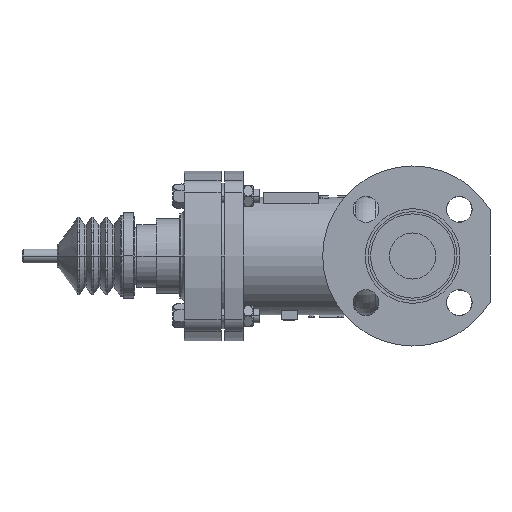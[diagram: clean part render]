
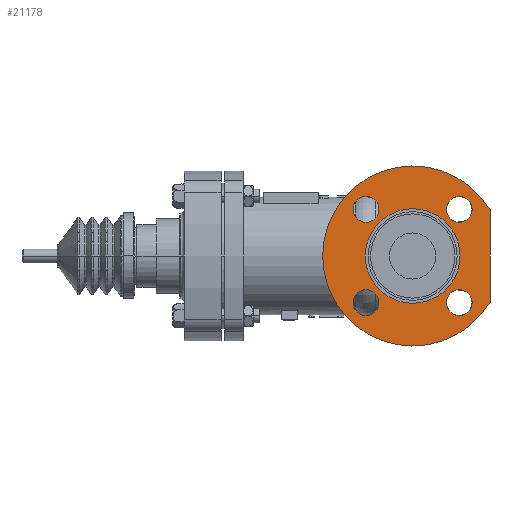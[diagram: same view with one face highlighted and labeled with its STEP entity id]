
A CAD part, left-side view. The second image highlights one B-rep face of the part: STEP entity #21178.
In plain terms, the highlighted planar face has unit normal (-1, 0, 0).
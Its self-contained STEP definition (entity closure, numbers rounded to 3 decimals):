
#7557=CARTESIAN_POINT('',(-96.,0.,0.));
#7558=DIRECTION('',(-1.,0.,0.));
#7559=DIRECTION('',(0.,-0.859,0.512));
#7560=AXIS2_PLACEMENT_3D('',#7557,#7558,#7559);
#7628=CARTESIAN_POINT('',(-96.,0.,0.));
#7629=DIRECTION('',(1.,0.,0.));
#7630=DIRECTION('',(0.,1.,0.));
#7631=AXIS2_PLACEMENT_3D('',#7628,#7629,#7630);
#7633=CARTESIAN_POINT('',(-96.,0.,0.));
#7634=DIRECTION('',(-1.,0.,0.));
#7635=DIRECTION('',(0.,1.,0.));
#7636=AXIS2_PLACEMENT_3D('',#7633,#7634,#7635);
#7638=DIRECTION('',(0.,0.,1.));
#7639=VECTOR('',#7638,79.875);
#7640=CARTESIAN_POINT('',(-96.,-67.,-39.937));
#7641=LINE('',#7640,#7639);
#7642=CARTESIAN_POINT('',(-96.,40.411,40.411));
#7643=DIRECTION('',(1.,0.,0.));
#7644=DIRECTION('',(0.,1.,0.));
#7645=AXIS2_PLACEMENT_3D('',#7642,#7643,#7644);
#7647=CARTESIAN_POINT('',(-96.,40.411,40.411));
#7648=DIRECTION('',(1.,0.,0.));
#7649=DIRECTION('',(0.,-1.,0.));
#7650=AXIS2_PLACEMENT_3D('',#7647,#7648,#7649);
#7652=CARTESIAN_POINT('',(-96.,40.411,-40.411));
#7653=DIRECTION('',(1.,0.,0.));
#7654=DIRECTION('',(0.,0.,-1.));
#7655=AXIS2_PLACEMENT_3D('',#7652,#7653,#7654);
#7657=CARTESIAN_POINT('',(-96.,40.411,-40.411));
#7658=DIRECTION('',(1.,0.,0.));
#7659=DIRECTION('',(0.,0.,1.));
#7660=AXIS2_PLACEMENT_3D('',#7657,#7658,#7659);
#7662=CARTESIAN_POINT('',(-96.,-40.411,-40.411));
#7663=DIRECTION('',(1.,0.,0.));
#7664=DIRECTION('',(0.,-1.,0.));
#7665=AXIS2_PLACEMENT_3D('',#7662,#7663,#7664);
#7667=CARTESIAN_POINT('',(-96.,-40.411,-40.411));
#7668=DIRECTION('',(1.,0.,0.));
#7669=DIRECTION('',(0.,1.,0.));
#7670=AXIS2_PLACEMENT_3D('',#7667,#7668,#7669);
#7672=CARTESIAN_POINT('',(-96.,-40.411,40.411));
#7673=DIRECTION('',(1.,0.,0.));
#7674=DIRECTION('',(0.,0.,1.));
#7675=AXIS2_PLACEMENT_3D('',#7672,#7673,#7674);
#7677=CARTESIAN_POINT('',(-96.,-40.411,40.411));
#7678=DIRECTION('',(1.,0.,0.));
#7679=DIRECTION('',(0.,0.,-1.));
#7680=AXIS2_PLACEMENT_3D('',#7677,#7678,#7679);
#9509=CARTESIAN_POINT('',(-96.,-67.,-39.937));
#9511=VERTEX_POINT('',#9509);
#9520=CARTESIAN_POINT('',(-96.,-67.,39.937));
#9521=VERTEX_POINT('',#9520);
#9592=CARTESIAN_POINT('',(-96.,51.561,40.411));
#9593=VERTEX_POINT('',#9592);
#9594=CARTESIAN_POINT('',(-96.,29.261,40.411));
#9595=VERTEX_POINT('',#9594);
#9600=CARTESIAN_POINT('',(-96.,40.411,-51.561));
#9601=VERTEX_POINT('',#9600);
#9602=CARTESIAN_POINT('',(-96.,40.411,-29.261));
#9603=VERTEX_POINT('',#9602);
#9608=CARTESIAN_POINT('',(-96.,-51.561,-40.411));
#9609=VERTEX_POINT('',#9608);
#9610=CARTESIAN_POINT('',(-96.,-29.261,-40.411));
#9611=VERTEX_POINT('',#9610);
#9616=CARTESIAN_POINT('',(-96.,-40.411,51.561));
#9617=VERTEX_POINT('',#9616);
#9618=CARTESIAN_POINT('',(-96.,-40.411,29.261));
#9619=VERTEX_POINT('',#9618);
#11540=CARTESIAN_POINT('',(-96.,41.,0.));
#11542=VERTEX_POINT('',#11540);
#11556=CARTESIAN_POINT('',(-96.,-41.,0.));
#11558=VERTEX_POINT('',#11556);
#21141=CARTESIAN_POINT('',(-96.,0.,0.));
#21142=DIRECTION('',(-1.,0.,0.));
#21143=DIRECTION('',(0.,-1.,0.));
#21144=AXIS2_PLACEMENT_3D('',#21141,#21142,#21143);
#21145=PLANE('',#21144);
#21146=ORIENTED_EDGE('',*,*,#21035,.F.);
#21147=ORIENTED_EDGE('',*,*,#21067,.F.);
#21148=EDGE_LOOP('',(#21146,#21147));
#21149=FACE_OUTER_BOUND('',#21148,.F.);
#21151=ORIENTED_EDGE('',*,*,#21150,.F.);
#21153=ORIENTED_EDGE('',*,*,#21152,.T.);
#21154=EDGE_LOOP('',(#21151,#21153));
#21155=FACE_BOUND('',#21154,.F.);
#21156=ORIENTED_EDGE('',*,*,#21121,.F.);
#21157=ORIENTED_EDGE('',*,*,#21135,.F.);
#21158=EDGE_LOOP('',(#21156,#21157));
#21159=FACE_BOUND('',#21158,.F.);
#21161=ORIENTED_EDGE('',*,*,#21160,.F.);
#21163=ORIENTED_EDGE('',*,*,#21162,.F.);
#21164=EDGE_LOOP('',(#21161,#21163));
#21165=FACE_BOUND('',#21164,.F.);
#21167=ORIENTED_EDGE('',*,*,#21166,.F.);
#21169=ORIENTED_EDGE('',*,*,#21168,.F.);
#21170=EDGE_LOOP('',(#21167,#21169));
#21171=FACE_BOUND('',#21170,.F.);
#21173=ORIENTED_EDGE('',*,*,#21172,.F.);
#21175=ORIENTED_EDGE('',*,*,#21174,.F.);
#21176=EDGE_LOOP('',(#21173,#21175));
#21177=FACE_BOUND('',#21176,.F.);
#21178=ADVANCED_FACE('',(#21149,#21155,#21159,#21165,#21171,#21177),#21145,.T.);
#7561=CIRCLE('',#7560,78.);
#7632=CIRCLE('',#7631,41.);
#7637=CIRCLE('',#7636,41.);
#7646=CIRCLE('',#7645,11.15);
#7651=CIRCLE('',#7650,11.15);
#7656=CIRCLE('',#7655,11.15);
#7661=CIRCLE('',#7660,11.15);
#7666=CIRCLE('',#7665,11.15);
#7671=CIRCLE('',#7670,11.15);
#7676=CIRCLE('',#7675,11.15);
#7681=CIRCLE('',#7680,11.15);
#21035=EDGE_CURVE('',#9511,#9521,#7641,.T.);
#21067=EDGE_CURVE('',#9521,#9511,#7561,.T.);
#21121=EDGE_CURVE('',#9593,#9595,#7646,.T.);
#21135=EDGE_CURVE('',#9595,#9593,#7651,.T.);
#21150=EDGE_CURVE('',#11542,#11558,#7632,.T.);
#21152=EDGE_CURVE('',#11542,#11558,#7637,.T.);
#21160=EDGE_CURVE('',#9601,#9603,#7656,.T.);
#21162=EDGE_CURVE('',#9603,#9601,#7661,.T.);
#21166=EDGE_CURVE('',#9609,#9611,#7666,.T.);
#21168=EDGE_CURVE('',#9611,#9609,#7671,.T.);
#21172=EDGE_CURVE('',#9617,#9619,#7676,.T.);
#21174=EDGE_CURVE('',#9619,#9617,#7681,.T.);
